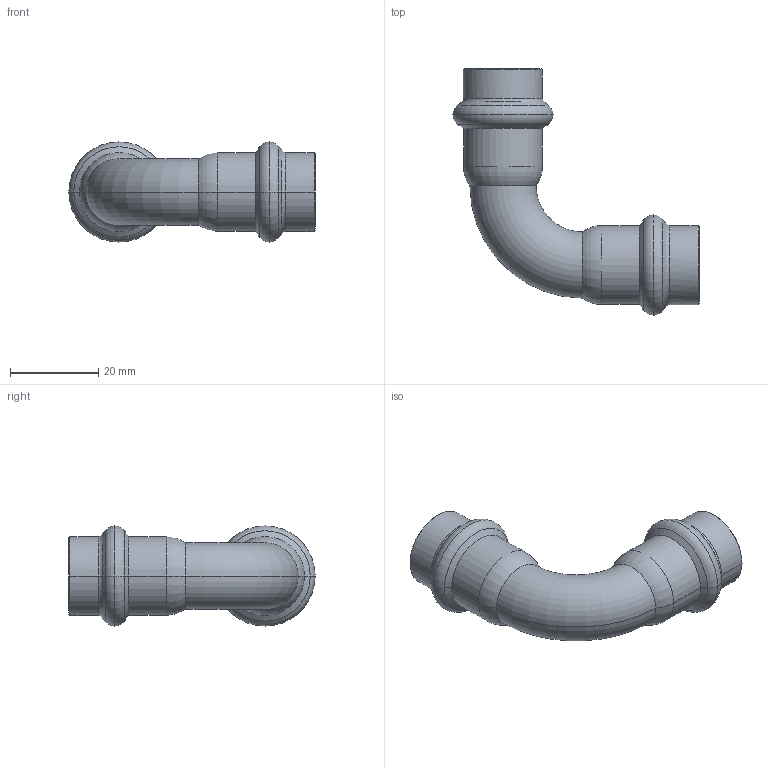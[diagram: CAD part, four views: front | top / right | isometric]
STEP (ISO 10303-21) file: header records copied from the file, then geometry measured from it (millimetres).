
FILE_DESCRIPTION(('CoCreate Modeling STEP Export'),'2;1');
FILE_NAME('8002VW15.stp','2013-01-29T13:43:31',(''),(''),'CoCreate Modeling STEP processor for AP214 (Solid Model)','CoCreate Modeling 17.00A 17-Jun-2010 (C) Parametric Technology GmbH','');
FILE_SCHEMA(('AUTOMOTIVE_DESIGN { 1 0 10303 214 1 1 1 1 }'));
Length unit declared in the file: millimetre
Products named in the file (2): 8002VW15
Assembly tree (1 placements, depth 2):
  8002VW15
    8002VW15
Bounding box: 55.78 x 55.78 x 22.69 mm (x, y, z)
Volume: 6553.4 mm3; surface area: 8636.9 mm2
Topology: 1 solids, 1 shells, 80 faces, 172 edges, 100 vertices
Faces by surface type: torus 30, cylinder 20, cone 20, plane 8, bspline 2
Entity records: 2049 total; most frequent: CARTESIAN_POINT 541, ORIENTED_EDGE 344, DIRECTION 276, EDGE_CURVE 172, AXIS2_PLACEMENT_3D 118, VERTEX_POINT 100, EDGE_LOOP 88, FACE_OUTER_BOUND 80
